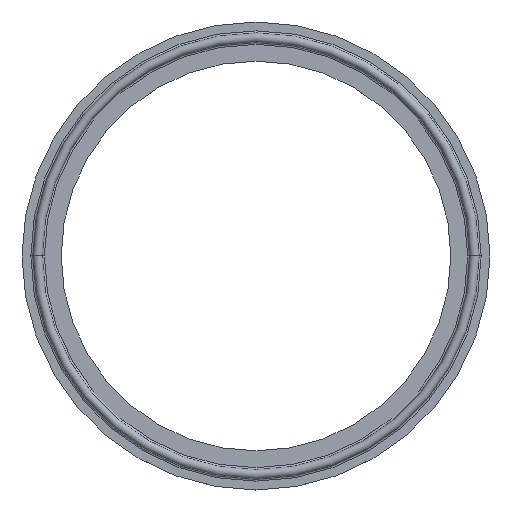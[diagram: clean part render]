
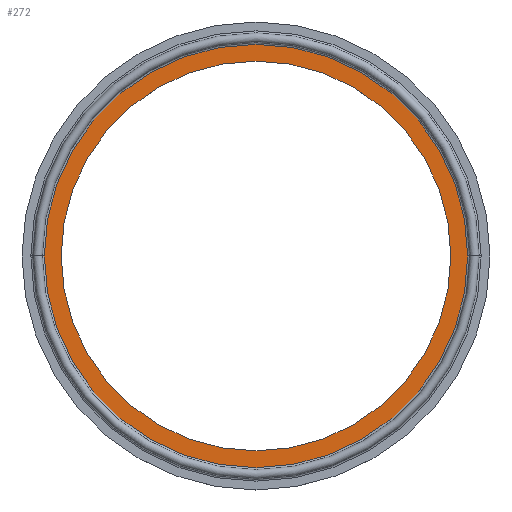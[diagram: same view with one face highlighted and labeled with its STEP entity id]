
A CAD part, top view. The second image highlights one B-rep face of the part: STEP entity #272.
In plain terms, the highlighted planar face has unit normal (0, 0, 1).
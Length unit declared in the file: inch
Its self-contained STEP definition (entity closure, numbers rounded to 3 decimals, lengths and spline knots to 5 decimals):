
#12 = AXIS2_PLACEMENT_3D ( 'NONE', #567, #153, #523 ) ;
#24 = CARTESIAN_POINT ( 'NONE',  ( 2.10512, 0., 0. ) ) ;
#31 = DIRECTION ( 'NONE',  ( 1., 0., 0. ) ) ;
#37 = DIRECTION ( 'NONE',  ( 1., 0., 0. ) ) ;
#47 = AXIS2_PLACEMENT_3D ( 'NONE', #478, #256, #31 ) ;
#52 = AXIS2_PLACEMENT_3D ( 'NONE', #433, #117, #251 ) ;
#97 = AXIS2_PLACEMENT_3D ( 'NONE', #344, #298, #206 ) ;
#115 = EDGE_CURVE ( 'NONE', #587, #318, #566, .T. ) ;
#117 = DIRECTION ( 'NONE',  ( 0., 0., 1. ) ) ;
#142 = ORIENTED_EDGE ( 'NONE', *, *, #115, .T. ) ;
#153 = DIRECTION ( 'NONE',  ( 0., 0., -1. ) ) ;
#154 = CIRCLE ( 'NONE', #238, 1.938 ) ;
#176 = DIRECTION ( 'NONE',  ( 0., 0., 1. ) ) ;
#182 = CARTESIAN_POINT ( 'NONE',  ( -2.10512, 0., 0. ) ) ;
#190 = VERTEX_POINT ( 'NONE', #396 ) ;
#199 = PLANE ( 'NONE',  #12 ) ;
#206 = DIRECTION ( 'NONE',  ( 1., 0., 0. ) ) ;
#211 = ORIENTED_EDGE ( 'NONE', *, *, #492, .F. ) ;
#238 = AXIS2_PLACEMENT_3D ( 'NONE', #451, #176, #37 ) ;
#239 = EDGE_LOOP ( 'NONE', ( #142, #556 ) ) ;
#251 = DIRECTION ( 'NONE',  ( 1., 0., 0. ) ) ;
#256 = DIRECTION ( 'NONE',  ( 0., 0., 1. ) ) ;
#268 = CARTESIAN_POINT ( 'NONE',  ( -1.938, 0., 0. ) ) ;
#271 = ORIENTED_EDGE ( 'NONE', *, *, #554, .F. ) ;
#272 = ADVANCED_FACE ( 'NONE', ( #345, #292 ), #199, .F. ) ;
#292 = FACE_OUTER_BOUND ( 'NONE', #239, .T. ) ;
#298 = DIRECTION ( 'NONE',  ( 0., 0., 1. ) ) ;
#318 = VERTEX_POINT ( 'NONE', #182 ) ;
#344 = CARTESIAN_POINT ( 'NONE',  ( 0., 0., 0. ) ) ;
#345 = FACE_BOUND ( 'NONE', #442, .T. ) ;
#396 = CARTESIAN_POINT ( 'NONE',  ( 1.938, 0., 0. ) ) ;
#433 = CARTESIAN_POINT ( 'NONE',  ( 0., 0., 0. ) ) ;
#442 = EDGE_LOOP ( 'NONE', ( #271, #211 ) ) ;
#446 = CIRCLE ( 'NONE', #97, 1.938 ) ;
#451 = CARTESIAN_POINT ( 'NONE',  ( 0., 0., 0. ) ) ;
#478 = CARTESIAN_POINT ( 'NONE',  ( 0., 0., 0. ) ) ;
#487 = VERTEX_POINT ( 'NONE', #268 ) ;
#492 = EDGE_CURVE ( 'NONE', #487, #190, #154, .T. ) ;
#523 = DIRECTION ( 'NONE',  ( -1., 0., 0. ) ) ;
#534 = EDGE_CURVE ( 'NONE', #318, #587, #539, .T. ) ;
#539 = CIRCLE ( 'NONE', #52, 2.10512 ) ;
#554 = EDGE_CURVE ( 'NONE', #190, #487, #446, .T. ) ;
#556 = ORIENTED_EDGE ( 'NONE', *, *, #534, .T. ) ;
#566 = CIRCLE ( 'NONE', #47, 2.10512 ) ;
#567 = CARTESIAN_POINT ( 'NONE',  ( 0., 1.938, 0. ) ) ;
#587 = VERTEX_POINT ( 'NONE', #24 ) ;
